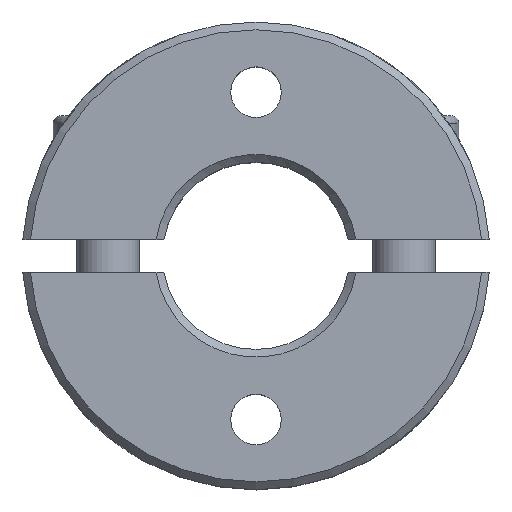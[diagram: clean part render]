
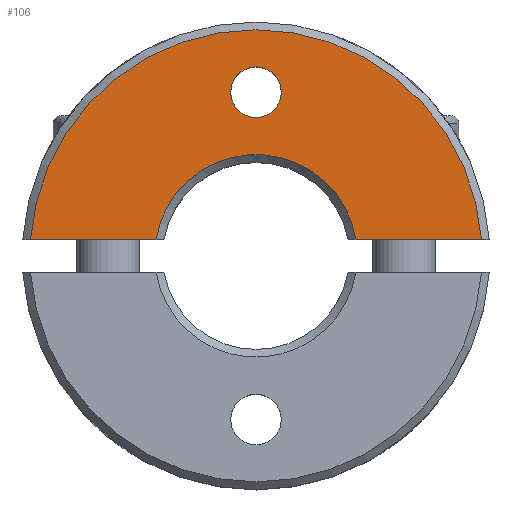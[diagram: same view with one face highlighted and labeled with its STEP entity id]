
A CAD part, top view. The second image highlights one B-rep face of the part: STEP entity #106.
In plain terms, the highlighted planar face has unit normal (0, 0, 1).
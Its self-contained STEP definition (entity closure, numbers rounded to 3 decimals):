
#106 = ADVANCED_FACE( '', ( #215, #216 ), #217, .T. );
#215 = FACE_OUTER_BOUND( '', #365, .T. );
#216 = FACE_BOUND( '', #366, .T. );
#217 = PLANE( '', #367 );
#365 = EDGE_LOOP( '', ( #638, #639, #640, #641 ) );
#366 = EDGE_LOOP( '', ( #642 ) );
#367 = AXIS2_PLACEMENT_3D( '', #643, #644, #645 );
#638 = ORIENTED_EDGE( '', *, *, #865, .F. );
#639 = ORIENTED_EDGE( '', *, *, #904, .T. );
#640 = ORIENTED_EDGE( '', *, *, #899, .F. );
#641 = ORIENTED_EDGE( '', *, *, #854, .F. );
#642 = ORIENTED_EDGE( '', *, *, #894, .T. );
#643 = CARTESIAN_POINT( '', ( 0., 6.5, 5.5 ) );
#644 = DIRECTION( '', ( 0., 0., 1. ) );
#645 = DIRECTION( '', ( 1., 0., 0. ) );
#854 = EDGE_CURVE( '', #988, #989, #990, .T. );
#865 = EDGE_CURVE( '', #1007, #988, #1009, .T. );
#894 = EDGE_CURVE( '', #1059, #1059, #1060, .F. );
#899 = EDGE_CURVE( '', #989, #1068, #1069, .T. );
#904 = EDGE_CURVE( '', #1007, #1068, #1075, .T. );
#988 = VERTEX_POINT( '', #1387 );
#989 = VERTEX_POINT( '', #1388 );
#990 = CIRCLE( '', #1389, 6.5 );
#1007 = VERTEX_POINT( '', #1420 );
#1009 = LINE( '', #1425, #1426 );
#1059 = VERTEX_POINT( '', #1538 );
#1060 = CIRCLE( '', #1539, 1.621 );
#1068 = VERTEX_POINT( '', #1548 );
#1069 = LINE( '', #1549, #1550 );
#1075 = CIRCLE( '', #1561, 14.5 );
#1387 = CARTESIAN_POINT( '', ( 6.415, 1.05, 5.5 ) );
#1388 = CARTESIAN_POINT( '', ( -6.415, 1.05, 5.5 ) );
#1389 = AXIS2_PLACEMENT_3D( '', #1691, #1692, #1693 );
#1420 = CARTESIAN_POINT( '', ( 14.462, 1.05, 5.5 ) );
#1425 = CARTESIAN_POINT( '', ( 17., 1.05, 5.5 ) );
#1426 = VECTOR( '', #1705, 1000. );
#1538 = CARTESIAN_POINT( '', ( 1.621, 10.5, 5.5 ) );
#1539 = AXIS2_PLACEMENT_3D( '', #1749, #1750, #1751 );
#1548 = CARTESIAN_POINT( '', ( -14.462, 1.05, 5.5 ) );
#1549 = CARTESIAN_POINT( '', ( 0., 1.05, 5.5 ) );
#1550 = VECTOR( '', #1762, 1000. );
#1561 = AXIS2_PLACEMENT_3D( '', #1768, #1769, #1770 );
#1691 = CARTESIAN_POINT( '', ( 0., 0., 5.5 ) );
#1692 = DIRECTION( '', ( 0., 0., 1. ) );
#1693 = DIRECTION( '', ( 1., 0., 0. ) );
#1705 = DIRECTION( '', ( -1., 0., 0. ) );
#1749 = CARTESIAN_POINT( '', ( 0., 10.5, 5.5 ) );
#1750 = DIRECTION( '', ( 0., 0., 1. ) );
#1751 = DIRECTION( '', ( 1., 0., 0. ) );
#1762 = DIRECTION( '', ( -1., 0., 0. ) );
#1768 = CARTESIAN_POINT( '', ( 0., 0., 5.5 ) );
#1769 = DIRECTION( '', ( 0., 0., 1. ) );
#1770 = DIRECTION( '', ( 1., 0., 0. ) );
